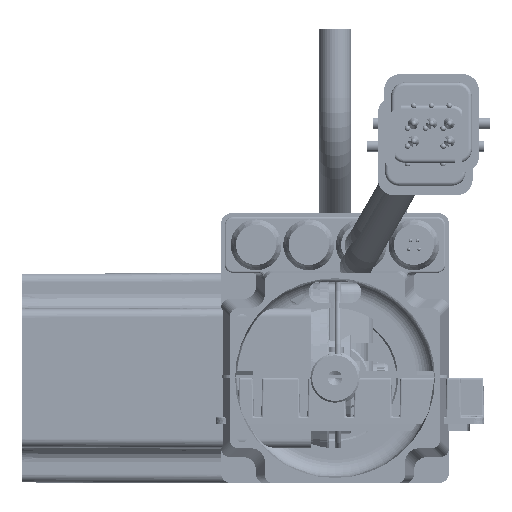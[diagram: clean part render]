
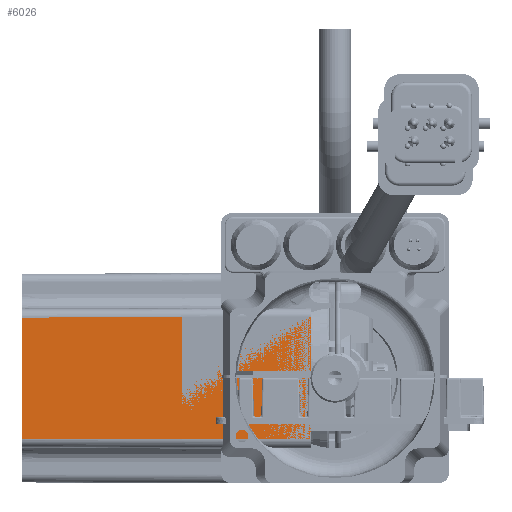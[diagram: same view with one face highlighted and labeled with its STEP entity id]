
A CAD part, front view. The second image highlights one B-rep face of the part: STEP entity #6026.
In plain terms, the highlighted planar face has unit normal (-0.003, -1, 0).
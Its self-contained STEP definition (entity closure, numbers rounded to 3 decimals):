
#6026 = ADVANCED_FACE( '', ( #16436 ), #16437, .T. );
#16436 = FACE_OUTER_BOUND( '', #33153, .T. );
#16437 = PLANE( '', #33154 );
#33153 = EDGE_LOOP( '', ( #62997, #62998, #62999, #63000 ) );
#33154 = AXIS2_PLACEMENT_3D( '', #63001, #63002, #63003 );
#62997 = ORIENTED_EDGE( '', *, *, #92492, .T. );
#62998 = ORIENTED_EDGE( '', *, *, #92493, .T. );
#62999 = ORIENTED_EDGE( '', *, *, #92494, .T. );
#63000 = ORIENTED_EDGE( '', *, *, #91981, .T. );
#63001 = CARTESIAN_POINT( '', ( -6., -30., 0. ) );
#63002 = DIRECTION( '', ( -0.003, -1., 0. ) );
#63003 = DIRECTION( '', ( 1., -0.003, 0. ) );
#91981 = EDGE_CURVE( '', #104372, #104370, #104373, .T. );
#92492 = EDGE_CURVE( '', #104370, #105227, #105228, .T. );
#92493 = EDGE_CURVE( '', #105227, #105229, #105230, .T. );
#92494 = EDGE_CURVE( '', #105229, #104372, #105231, .T. );
#104370 = VERTEX_POINT( '', #129534 );
#104372 = VERTEX_POINT( '', #129536 );
#104373 = LINE( '', #129537, #129538 );
#105227 = VERTEX_POINT( '', #131990 );
#105228 = LINE( '', #131991, #131992 );
#105229 = VERTEX_POINT( '', #131993 );
#105230 = LINE( '', #131994, #131995 );
#105231 = LINE( '', #131996, #131997 );
#129534 = CARTESIAN_POINT( '', ( -89.25, -29.758, -17.258 ) );
#129536 = CARTESIAN_POINT( '', ( -89.25, -29.758, 17.258 ) );
#129537 = CARTESIAN_POINT( '', ( -89.25, -29.758, 0. ) );
#129538 = VECTOR( '', #156962, 1000. );
#131990 = CARTESIAN_POINT( '', ( -6.75, -29.998, -17.498 ) );
#131991 = CARTESIAN_POINT( '', ( -5.993, -30., -17.5 ) );
#131992 = VECTOR( '', #157717, 1000. );
#131993 = CARTESIAN_POINT( '', ( -6.75, -29.998, 17.498 ) );
#131994 = CARTESIAN_POINT( '', ( -6.75, -29.998, 0. ) );
#131995 = VECTOR( '', #157718, 1000. );
#131996 = CARTESIAN_POINT( '', ( -89.993, -29.756, 17.256 ) );
#131997 = VECTOR( '', #157719, 1000. );
#156962 = DIRECTION( '', ( 0., 0., -1. ) );
#157717 = DIRECTION( '', ( 1., -0.003, -0.003 ) );
#157718 = DIRECTION( '', ( 0., 0., 1. ) );
#157719 = DIRECTION( '', ( -1., 0.003, -0.003 ) );
